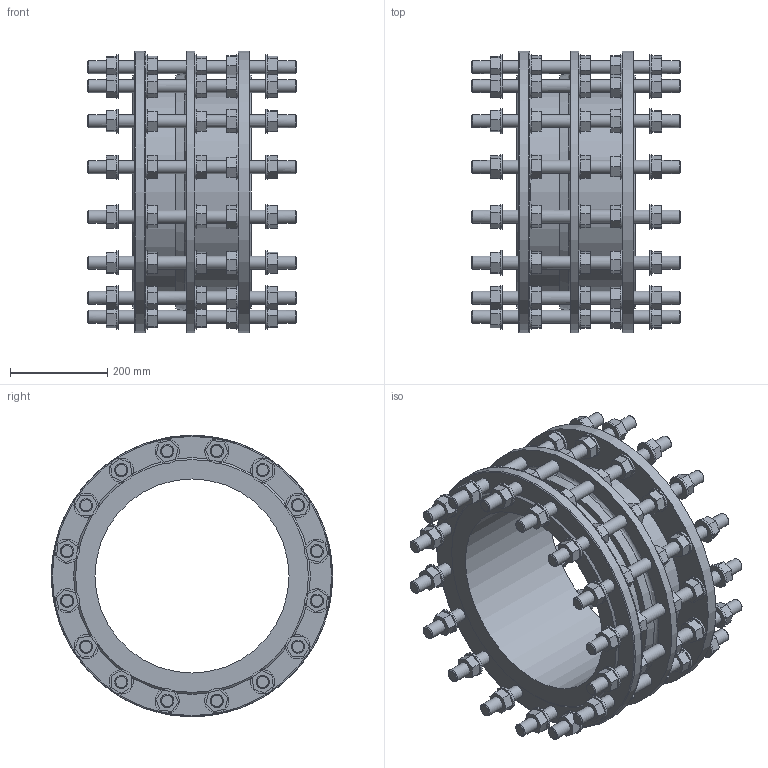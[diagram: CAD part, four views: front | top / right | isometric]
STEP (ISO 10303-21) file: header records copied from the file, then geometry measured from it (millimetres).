
FILE_DESCRIPTION (( 'STEP AP203' ), '1' );
FILE_NAME ('O_265_910_DN400_1XXXXX00_L=245_REV01.step', '2024-10-11T09:17:52', ( '' ), ( '' ), 'SwSTEP 2.0', 'SolidWorks 2022', '' );
FILE_SCHEMA (( 'CONFIG_CONTROL_DESIGN' ));
Length unit declared in the file: millimetre
Products named in the file (1): O_265_910_DN400_1XXXXX00_L=245_REV01
Bounding box: 430 x 580 x 580 mm (x, y, z)
Volume: 18755591.9 mm3; surface area: 2057757.6 mm2
Topology: 1 solids, 1 shells, 974 faces, 2336 edges, 1583 vertices
Faces by surface type: plane 752, cylinder 184, cone 35, torus 3
Full cylindrical faces by diameter (mm): 27 x96, 50 x80, 400 x1, 418 x1, 450 x1, 580 x3
Entity records: 26496 total; most frequent: CARTESIAN_POINT 4816, DIRECTION 4345, ORIENTED_EDGE 3974, EDGE_CURVE 1987, VECTOR 1547, LINE 1547, EDGE_LOOP 1479, VERTEX_POINT 1454
